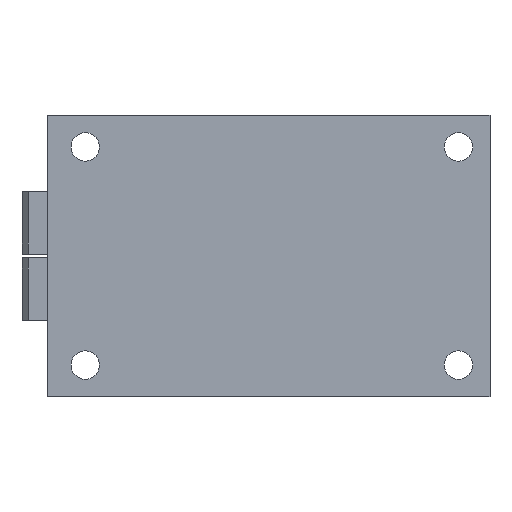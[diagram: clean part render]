
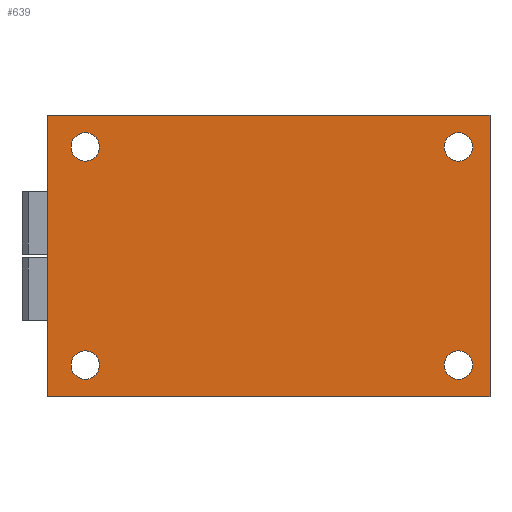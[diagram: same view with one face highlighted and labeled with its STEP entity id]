
A CAD part, front view. The second image highlights one B-rep face of the part: STEP entity #639.
In plain terms, the highlighted planar face has unit normal (0, -1, 0).
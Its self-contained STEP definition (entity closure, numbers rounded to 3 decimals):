
#639=ADVANCED_FACE('',(#1268,#1269,#1270,#1271,#1272),#1273,.F.);
#1268=FACE_OUTER_BOUND('',#1918,.T.);
#1269=FACE_BOUND('',#1919,.T.);
#1270=FACE_BOUND('',#1920,.T.);
#1271=FACE_BOUND('',#1921,.T.);
#1272=FACE_BOUND('',#1922,.T.);
#1273=PLANE('',#1923);
#1918=EDGE_LOOP('',(#4147,#4148,#4149,#4150));
#1919=EDGE_LOOP('',(#4151));
#1920=EDGE_LOOP('',(#4152));
#1921=EDGE_LOOP('',(#4153));
#1922=EDGE_LOOP('',(#4154));
#1923=AXIS2_PLACEMENT_3D('',#4155,#4156,#4157);
#4147=ORIENTED_EDGE('',*,*,#4894,.T.);
#4148=ORIENTED_EDGE('',*,*,#4893,.F.);
#4149=ORIENTED_EDGE('',*,*,#4871,.F.);
#4150=ORIENTED_EDGE('',*,*,#4884,.T.);
#4151=ORIENTED_EDGE('',*,*,#4895,.F.);
#4152=ORIENTED_EDGE('',*,*,#4889,.F.);
#4153=ORIENTED_EDGE('',*,*,#4896,.F.);
#4154=ORIENTED_EDGE('',*,*,#4886,.F.);
#4155=CARTESIAN_POINT('',(0.0,0.0,22.25));
#4156=DIRECTION('',(-0.0,1.0,0.0));
#4157=DIRECTION('',(1.0,0.0,0.0));
#4871=EDGE_CURVE('',#6033,#6035,#6036,.T.);
#4884=EDGE_CURVE('',#6033,#6059,#6061,.T.);
#4886=EDGE_CURVE('',#6063,#6063,#6064,.T.);
#4889=EDGE_CURVE('',#6069,#6069,#6070,.T.);
#4893=EDGE_CURVE('',#6035,#6073,#6077,.T.);
#4894=EDGE_CURVE('',#6059,#6073,#6078,.T.);
#4895=EDGE_CURVE('',#6079,#6079,#6080,.T.);
#4896=EDGE_CURVE('',#6081,#6081,#6082,.T.);
#6033=VERTEX_POINT('',#7882);
#6035=VERTEX_POINT('',#7885);
#6036=LINE('',#7886,#7887);
#6059=VERTEX_POINT('',#7911);
#6061=LINE('',#7914,#7915);
#6063=VERTEX_POINT('',#7918);
#6064=CIRCLE('',#7919,2.25);
#6069=VERTEX_POINT('',#7924);
#6070=CIRCLE('',#7925,2.25);
#6073=VERTEX_POINT('',#7928);
#6077=LINE('',#7934,#7935);
#6078=LINE('',#7936,#7937);
#6079=VERTEX_POINT('',#7938);
#6080=CIRCLE('',#7939,2.25);
#6081=VERTEX_POINT('',#7940);
#6082=CIRCLE('',#7941,2.25);
#7882=CARTESIAN_POINT('',(0.0,0.0,22.25));
#7885=CARTESIAN_POINT('',(70.0,0.0,22.25));
#7886=CARTESIAN_POINT('',(0.0,0.0,22.25));
#7887=VECTOR('',#8841,1.0);
#7911=CARTESIAN_POINT('',(0.0,0.0,-22.25));
#7914=CARTESIAN_POINT('',(0.0,0.0,22.25));
#7915=VECTOR('',#8874,1.0);
#7918=CARTESIAN_POINT('',(65.0,0.0,19.5));
#7919=AXIS2_PLACEMENT_3D('',#8876,#8877,#8878);
#7924=CARTESIAN_POINT('',(65.0,0.0,-15.0));
#7925=AXIS2_PLACEMENT_3D('',#8885,#8886,#8887);
#7928=CARTESIAN_POINT('',(70.0,0.0,-22.25));
#7934=CARTESIAN_POINT('',(70.0,0.0,22.25));
#7935=VECTOR('',#8893,1.0);
#7936=CARTESIAN_POINT('',(0.0,0.0,-22.25));
#7937=VECTOR('',#8894,1.0);
#7938=CARTESIAN_POINT('',(6.0,0.0,19.5));
#7939=AXIS2_PLACEMENT_3D('',#8895,#8896,#8897);
#7940=CARTESIAN_POINT('',(6.0,0.0,-15.0));
#7941=AXIS2_PLACEMENT_3D('',#8898,#8899,#8900);
#8841=DIRECTION('',(1.0,0.0,0.0));
#8874=DIRECTION('',(0.0,0.0,-1.0));
#8876=CARTESIAN_POINT('',(65.0,0.0,17.25));
#8877=DIRECTION('',(0.0,-1.0,0.0));
#8878=DIRECTION('',(0.0,0.0,1.0));
#8885=CARTESIAN_POINT('',(65.0,0.0,-17.25));
#8886=DIRECTION('',(0.0,-1.0,0.0));
#8887=DIRECTION('',(0.0,0.0,1.0));
#8893=DIRECTION('',(0.0,0.0,-1.0));
#8894=DIRECTION('',(1.0,0.0,0.0));
#8895=CARTESIAN_POINT('',(6.0,0.0,17.25));
#8896=DIRECTION('',(0.0,-1.0,0.0));
#8897=DIRECTION('',(0.0,0.0,1.0));
#8898=CARTESIAN_POINT('',(6.0,0.0,-17.25));
#8899=DIRECTION('',(0.0,-1.0,0.0));
#8900=DIRECTION('',(0.0,0.0,1.0));
